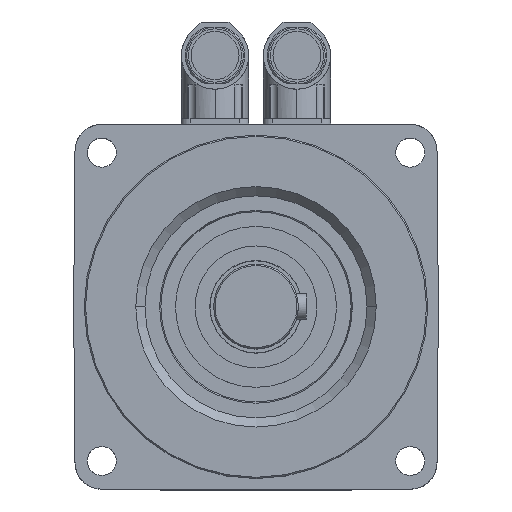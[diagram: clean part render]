
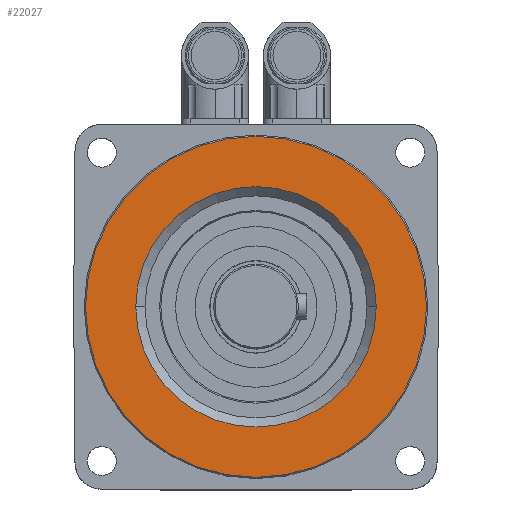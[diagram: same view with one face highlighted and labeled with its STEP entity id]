
A CAD part, top view. The second image highlights one B-rep face of the part: STEP entity #22027.
In plain terms, the highlighted planar face has unit normal (0, 0, 1).
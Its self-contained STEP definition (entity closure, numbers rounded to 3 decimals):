
#1028 = FACE_BOUND ( 'NONE', #22292, .T. ) ;
#1032 = FACE_OUTER_BOUND ( 'NONE', #22028, .T. ) ;
#1102 = DIRECTION ( 'NONE',  ( -1., 0., 0. ) ) ;
#1104 = DIRECTION ( 'NONE',  ( 0., 0., -1. ) ) ;
#1106 = CARTESIAN_POINT ( 'NONE',  ( 0., 0., 2.46 ) ) ;
#1107 = AXIS2_PLACEMENT_3D ( 'NONE', #1106, #1104, #1102 ) ;
#1109 = CIRCLE ( 'NONE', #1107, 45.5 ) ;
#1136 = DIRECTION ( 'NONE',  ( 1., 0., 0. ) ) ;
#1138 = DIRECTION ( 'NONE',  ( 0., 0., 1. ) ) ;
#1140 = AXIS2_PLACEMENT_3D ( 'NONE', #1153, #1138, #1136 ) ;
#1141 = CIRCLE ( 'NONE', #1140, 64.5 ) ;
#1147 = DIRECTION ( 'NONE',  ( 1., 0., 0. ) ) ;
#1149 = DIRECTION ( 'NONE',  ( 0., 0., 1. ) ) ;
#1151 = CARTESIAN_POINT ( 'NONE',  ( 0., 64.5, 2.46 ) ) ;
#1152 = AXIS2_PLACEMENT_3D ( 'NONE', #1151, #1149, #1147 ) ;
#1153 = CARTESIAN_POINT ( 'NONE',  ( 0., 0., 2.46 ) ) ;
#1158 = PLANE ( 'NONE',  #1152 ) ;
#6035 = DIRECTION ( 'NONE',  ( 0., 0., 1. ) ) ;
#6036 = CARTESIAN_POINT ( 'NONE',  ( 0., 0., 2.46 ) ) ;
#6037 = AXIS2_PLACEMENT_3D ( 'NONE', #6036, #6035, #6053 ) ;
#6038 = CIRCLE ( 'NONE', #6037, 64.5 ) ;
#6051 = CARTESIAN_POINT ( 'NONE',  ( -64.5, 0., 2.46 ) ) ;
#6052 = CARTESIAN_POINT ( 'NONE',  ( 64.5, 0., 2.46 ) ) ;
#6053 = DIRECTION ( 'NONE',  ( 1., 0., 0. ) ) ;
#20609 = VERTEX_POINT ( 'NONE', #29582 ) ;
#20615 = EDGE_CURVE ( 'NONE', #20646, #20609, #29711, .T. ) ;
#20646 = VERTEX_POINT ( 'NONE', #29855 ) ;
#21825 = EDGE_CURVE ( 'NONE', #21826, #21827, #6038, .T. ) ;
#21826 = VERTEX_POINT ( 'NONE', #6052 ) ;
#21827 = VERTEX_POINT ( 'NONE', #6051 ) ;
#21995 = ORIENTED_EDGE ( 'NONE', *, *, #21996, .T. ) ;
#21996 = EDGE_CURVE ( 'NONE', #20609, #20646, #1109, .T. ) ;
#22027 = ADVANCED_FACE ( 'NONE', ( #1032, #1028 ), #1158, .T. ) ;
#22028 = EDGE_LOOP ( 'NONE', ( #22029, #22031 ) ) ;
#22029 = ORIENTED_EDGE ( 'NONE', *, *, #22030, .T. ) ;
#22030 = EDGE_CURVE ( 'NONE', #21827, #21826, #1141, .T. ) ;
#22031 = ORIENTED_EDGE ( 'NONE', *, *, #21825, .T. ) ;
#22292 = EDGE_LOOP ( 'NONE', ( #22293, #21995 ) ) ;
#22293 = ORIENTED_EDGE ( 'NONE', *, *, #20615, .T. ) ;
#29582 = CARTESIAN_POINT ( 'NONE',  ( -45.5, 0., 2.46 ) ) ;
#29706 = DIRECTION ( 'NONE',  ( -1., 0., 0. ) ) ;
#29707 = DIRECTION ( 'NONE',  ( 0., 0., -1. ) ) ;
#29708 = CARTESIAN_POINT ( 'NONE',  ( 0., 0., 2.46 ) ) ;
#29709 = AXIS2_PLACEMENT_3D ( 'NONE', #29708, #29707, #29706 ) ;
#29711 = CIRCLE ( 'NONE', #29709, 45.5 ) ;
#29855 = CARTESIAN_POINT ( 'NONE',  ( 45.5, 0., 2.46 ) ) ;
